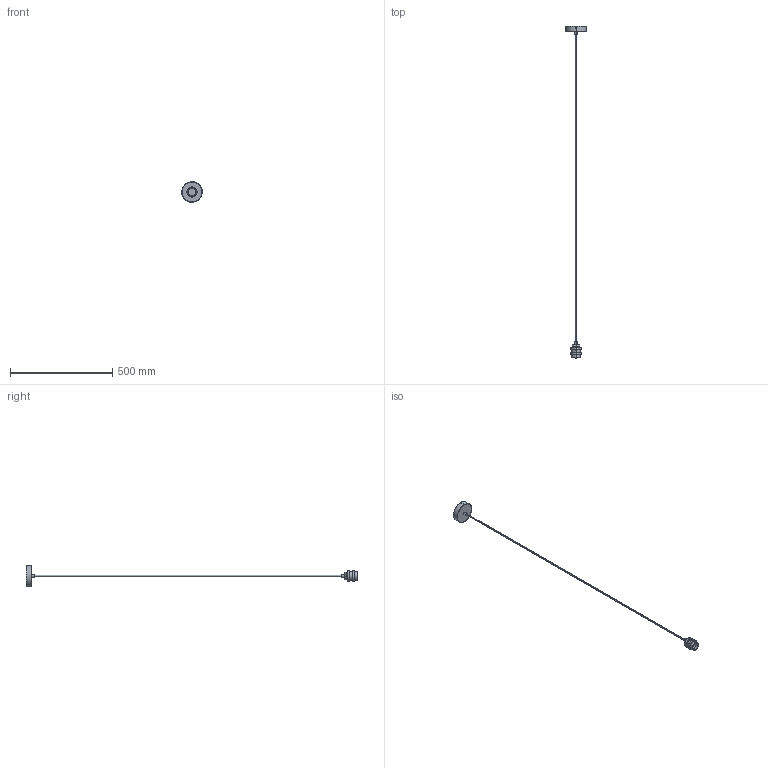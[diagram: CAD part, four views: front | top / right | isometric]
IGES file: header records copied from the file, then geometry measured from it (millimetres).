
Start section: SolidWorks IGES file using analytic representation for surfaces
Global section: file name: C:\Users\Agus\Desktop\incorporar\1142\C1010.IGS; native system: SolidWorks 2018; preprocessor: SolidWorks 2018; author: Agus; date: 200409.113939; units: millimetre
Bounding box: 100 x 1621 x 100 mm (x, y, z)
Surface area: 86699.5 mm2 (no closed solid volume)
Topology: 0 solids, 0 shells, 44 faces, 1288 edges, 1288 vertices
Faces by surface type: revolution 22, bspline 22
